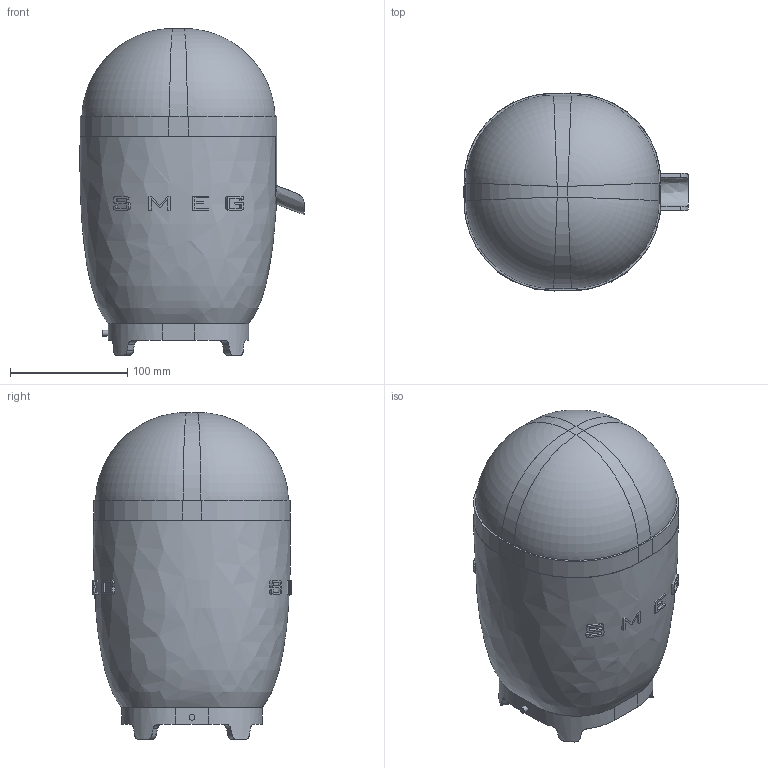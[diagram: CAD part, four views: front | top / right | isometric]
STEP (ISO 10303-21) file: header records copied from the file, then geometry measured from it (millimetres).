
FILE_DESCRIPTION(/* description */ (''),/* implementation_level */ '2;1');
FILE_NAME(/* name */ 'spremiagrumi cjf01.stp',/* time_stamp */ '2018-09-20T13:56:54+02:00',/* author */ (''),/* organization */ (''),/* preprocessor_version */ 'ST-DEVELOPER v16',/* originating_system */ 'SIEMENS PLM Software NX 11.0',/* authorisation */ '');
FILE_SCHEMA (('AUTOMOTIVE_DESIGN { 1 0 10303 214 3 1 1 1 }'));
Length unit declared in the file: millimetre
Products named in the file (1): gobb80D85F20cgoe
Bounding box: 191.39 x 169.07 x 279 mm (x, y, z)
Volume: 685748.3 mm3; surface area: 309737.3 mm2
Topology: 13 solids, 14 shells, 237 faces, 629 edges, 412 vertices
Faces by surface type: plane 145, cylinder 52, extrusion 28, bspline 10, cone 1, torus 1
Full cylindrical faces by diameter (mm): 5 x1, 158 x1
Entity records: 13048 total; most frequent: CARTESIAN_POINT 7658, ORIENTED_EDGE 1217, DIRECTION 835, EDGE_CURVE 611, VERTEX_POINT 409, B_SPLINE_CURVE_WITH_KNOTS 315, AXIS2_PLACEMENT_3D 283, VECTOR 269
